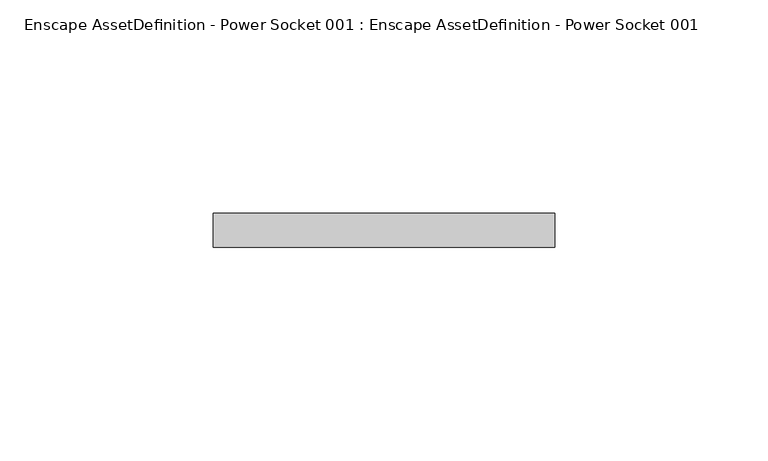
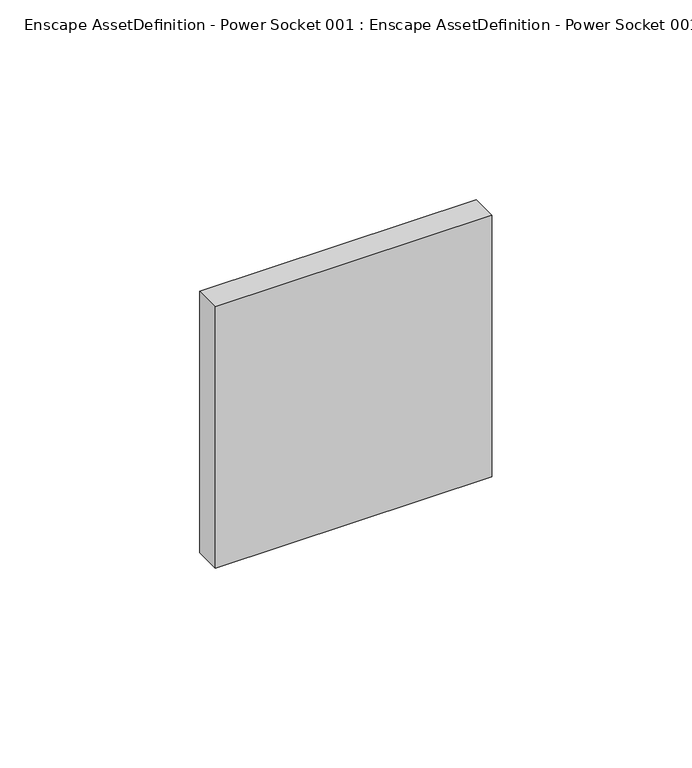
"""IFC4 building model written with IfcOpenShell, lengths in millimetres: geographic element geometry, Enscape AssetDefinition - Power Socket 001 : Enscape AssetDefinition - Power Socket 001."""

from ifc_helpers import new_model, si_unit, origin, place, context, project, spatial, triangles, source, transform, mapped, element, save


def enscape_assetdefinition_power_socket_001_enscape_5ca5412b(model_context):
    return source(origin(), model_context, "Body", "Tessellation", [
        triangles([(39.9999976, -8.0000005, 39.9999976), (39.9999976, 0.0, 39.9999976), (-39.9999976, 0.0, 39.9999976), (-39.9999976, -8.0000005, 39.9999976), (-39.9999976, -8.0000005, -39.9999976), (-39.9999976, 0.0, -39.9999976), (39.9999976, -8.0000005, -39.9999976), (39.9999976, 0.0, -39.9999976)], [[7, 6, 8], [5, 6, 7], [2, 8, 6], [3, 2, 6], [1, 7, 8], [2, 1, 8], [4, 5, 7], [1, 4, 7], [3, 6, 5], [4, 3, 5], [1, 2, 3], [4, 1, 3]]),
    ])


if __name__ == "__main__":
    model = new_model("IFC4")
    model_context = context("Model", 3, world=origin())
    ifc_project = project(units=[si_unit("LENGTHUNIT", "METRE", prefix="MILLI")], contexts=[model_context])
    site = spatial("IfcSite", under=ifc_project)
    building = spatial("IfcBuilding", under=site)
    placement = place(None, origin())
    enscape_assetdefinition_power_socket_001_enscape_shape = enscape_assetdefinition_power_socket_001_enscape_5ca5412b(model_context)
    element("IfcGeographicElement", 1, ObjectType="Enscape AssetDefinition - Power Socket 001 : Enscape AssetDefinition - Power Socket 001", at=placement, inside=building, context=model_context, shape_type="MappedRepresentation", body=[
        mapped(enscape_assetdefinition_power_socket_001_enscape_shape, transform((0.0, 0.0, 0.0), x_axis=(1.0, 0.0, 0.0), y_axis=(0.0, 1.0, 0.0), z_axis=(0.0, 0.0, 1.0))),
    ])
    save(model, "model.ifc")
